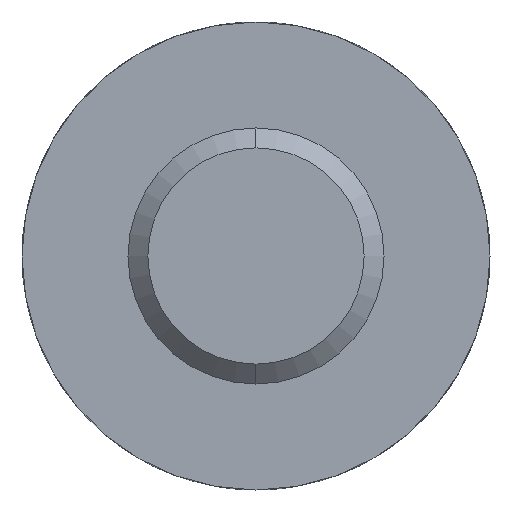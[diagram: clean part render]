
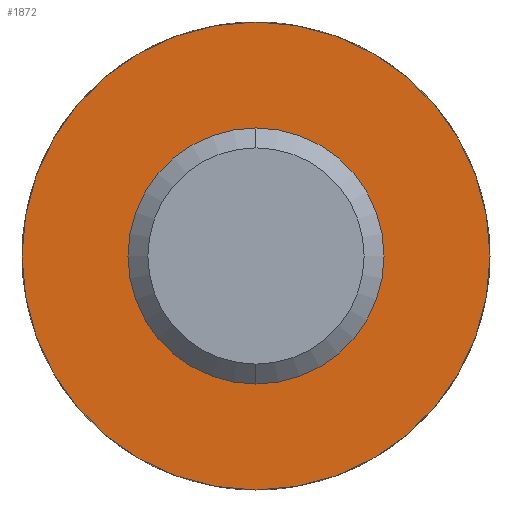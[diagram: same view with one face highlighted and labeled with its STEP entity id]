
A CAD part, left-side view. The second image highlights one B-rep face of the part: STEP entity #1872.
In plain terms, the highlighted planar face has unit normal (-1, 0, 0).
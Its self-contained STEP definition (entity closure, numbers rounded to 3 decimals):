
#96 = AXIS2_PLACEMENT_3D ( 'NONE', #2895, #3221, #2160 ) ;
#227 = CARTESIAN_POINT ( 'NONE',  ( 5.155, 0., -1.25 ) ) ;
#258 = VERTEX_POINT ( 'NONE', #282 ) ;
#282 = CARTESIAN_POINT ( 'NONE',  ( 5.155, 0., 2.65 ) ) ;
#389 = CARTESIAN_POINT ( 'NONE',  ( 5.155, 0., -2.65 ) ) ;
#498 = EDGE_LOOP ( 'NONE', ( #2753, #2476 ) ) ;
#616 = ORIENTED_EDGE ( 'NONE', *, *, #3562, .F. ) ;
#753 = DIRECTION ( 'NONE',  ( -1., 0., 0. ) ) ;
#913 = AXIS2_PLACEMENT_3D ( 'NONE', #3637, #3317, #3412 ) ;
#995 = CARTESIAN_POINT ( 'NONE',  ( 5.155, 0., 0. ) ) ;
#1063 = DIRECTION ( 'NONE',  ( 0., 0., 1. ) ) ;
#1206 = EDGE_LOOP ( 'NONE', ( #616, #3626 ) ) ;
#1276 = EDGE_CURVE ( 'NONE', #258, #3020, #1336, .T. ) ;
#1336 = CIRCLE ( 'NONE', #3012, 2.65 ) ;
#1395 = VERTEX_POINT ( 'NONE', #3438 ) ;
#1480 = AXIS2_PLACEMENT_3D ( 'NONE', #3696, #3884, #2192 ) ;
#1872 = ADVANCED_FACE ( 'NONE', ( #3721, #1901 ), #4202, .F. ) ;
#1901 = FACE_OUTER_BOUND ( 'NONE', #498, .T. ) ;
#1969 = CIRCLE ( 'NONE', #96, 1.25 ) ;
#2022 = CIRCLE ( 'NONE', #1480, 2.65 ) ;
#2051 = VERTEX_POINT ( 'NONE', #227 ) ;
#2160 = DIRECTION ( 'NONE',  ( 0., 0., 1. ) ) ;
#2192 = DIRECTION ( 'NONE',  ( 0., 0., 1. ) ) ;
#2193 = CIRCLE ( 'NONE', #913, 1.25 ) ;
#2429 = AXIS2_PLACEMENT_3D ( 'NONE', #4175, #2831, #2813 ) ;
#2476 = ORIENTED_EDGE ( 'NONE', *, *, #3743, .T. ) ;
#2753 = ORIENTED_EDGE ( 'NONE', *, *, #1276, .T. ) ;
#2813 = DIRECTION ( 'NONE',  ( 0., 0., -1. ) ) ;
#2831 = DIRECTION ( 'NONE',  ( 1., 0., 0. ) ) ;
#2895 = CARTESIAN_POINT ( 'NONE',  ( 5.155, 0., 0. ) ) ;
#3012 = AXIS2_PLACEMENT_3D ( 'NONE', #995, #753, #1063 ) ;
#3020 = VERTEX_POINT ( 'NONE', #389 ) ;
#3221 = DIRECTION ( 'NONE',  ( -1., 0., 0. ) ) ;
#3317 = DIRECTION ( 'NONE',  ( -1., 0., 0. ) ) ;
#3412 = DIRECTION ( 'NONE',  ( 0., 0., 1. ) ) ;
#3438 = CARTESIAN_POINT ( 'NONE',  ( 5.155, 0., 1.25 ) ) ;
#3562 = EDGE_CURVE ( 'NONE', #1395, #2051, #2193, .T. ) ;
#3626 = ORIENTED_EDGE ( 'NONE', *, *, #3946, .F. ) ;
#3637 = CARTESIAN_POINT ( 'NONE',  ( 5.155, 0., 0. ) ) ;
#3696 = CARTESIAN_POINT ( 'NONE',  ( 5.155, 0., 0. ) ) ;
#3721 = FACE_BOUND ( 'NONE', #1206, .T. ) ;
#3743 = EDGE_CURVE ( 'NONE', #3020, #258, #2022, .T. ) ;
#3884 = DIRECTION ( 'NONE',  ( -1., 0., 0. ) ) ;
#3946 = EDGE_CURVE ( 'NONE', #2051, #1395, #1969, .T. ) ;
#4175 = CARTESIAN_POINT ( 'NONE',  ( 5.155, 2.65, 0. ) ) ;
#4202 = PLANE ( 'NONE',  #2429 ) ;
